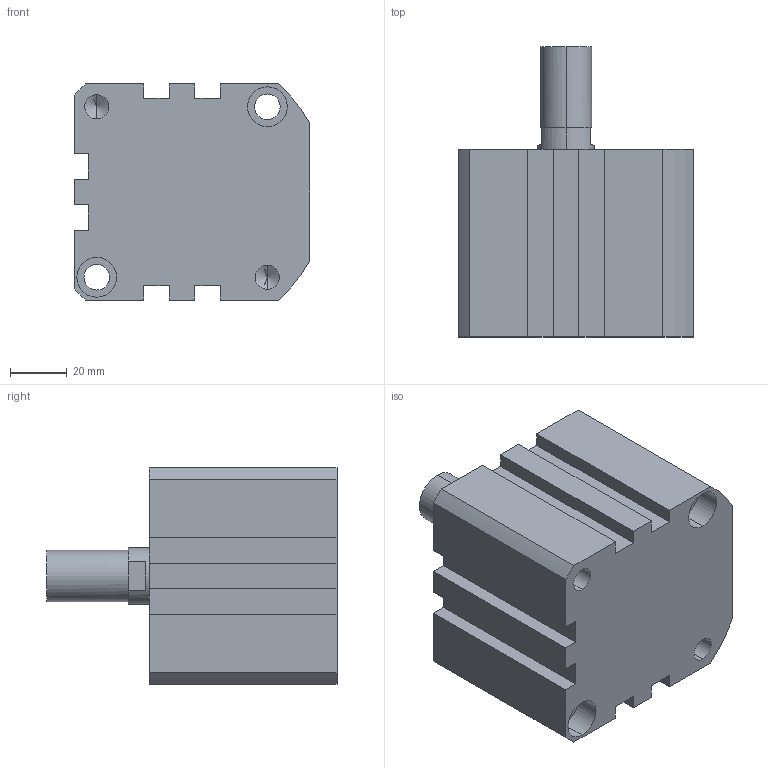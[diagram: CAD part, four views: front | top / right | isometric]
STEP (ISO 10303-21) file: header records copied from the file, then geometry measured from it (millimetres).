
FILE_DESCRIPTION (( 'STEP AP203' ), '1' );
FILE_NAME ('XG#M2-63D-10.STEP', '2016-05-24T02:19:35', ( '' ), ( '' ), 'SwSTEP 2.0', 'SolidWorks 2014', '' );
FILE_SCHEMA (( 'CONFIG_CONTROL_DESIGN' ));
Length unit declared in the file: millimetre
Products named in the file (1): XG#M2-63D-10
Bounding box: 83 x 102 x 76 mm (x, y, z)
Volume: 374141.1 mm3; surface area: 46092.4 mm2
Topology: 1 solids, 1 shells, 114 faces, 287 edges, 180 vertices
Faces by surface type: plane 50, cylinder 48, cone 16
Entity records: 3438 total; most frequent: DIRECTION 619, CARTESIAN_POINT 570, ORIENTED_EDGE 550, EDGE_CURVE 275, AXIS2_PLACEMENT_3D 229, VERTEX_POINT 180, VECTOR 161, LINE 161
